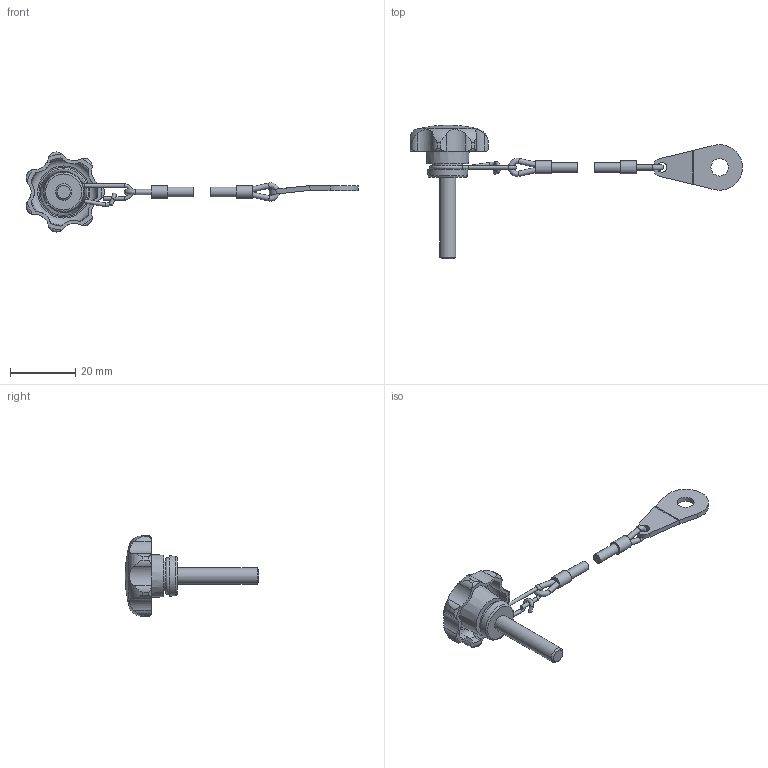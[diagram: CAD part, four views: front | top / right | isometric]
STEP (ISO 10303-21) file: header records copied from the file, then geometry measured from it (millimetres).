
FILE_DESCRIPTION( ( 'STEP AP203' ), '1' );
FILE_NAME( 'C:/Temp/Ganter_Step_05_03_2020/data/2_2/gn_6336_13/gn_6336_13_2/Star knob GN 6336.13-25-M5-25-H.stp', '2020-03-05T12:11:29', ( 'License CC BY-ND 4.0' ), ( 'CADENAS' ), ' ', 'PARTsolutions', ' ' );
FILE_SCHEMA( ( 'CONFIG_CONTROL_DESIGN' ) );
Length unit declared in the file: millimetre
Products named in the file (3): Star knob GN 6336.13-25-M5-25-H; _Star knob GN 6336.13-25-M5-25-H 6; _Star knob GN 111.2-200-14 h2
Assembly tree (2 placements, depth 2):
  Star knob GN 6336.13-25-M5-25-H
    _Star knob GN 6336.13-25-M5-25-H 6
    _Star knob GN 111.2-200-14 h2
Bounding box: 101.94 x 41 x 24.58 mm (x, y, z)
Volume: 4223 mm3; surface area: 3862.7 mm2
Topology: 2 solids, 2 shells, 137 faces, 376 edges, 244 vertices
Faces by surface type: cylinder 73, plane 32, torus 20, cone 11, sphere 1
Full cylindrical faces by diameter (mm): 1.1 x6, 1.6 x4, 3 x3, 4 x2, 5 x1, 5.3 x1, 9.1 x1
Entity records: 4849 total; most frequent: CARTESIAN_POINT 1530, DIRECTION 667, ORIENTED_EDGE 636, EDGE_CURVE 318, AXIS2_PLACEMENT_3D 287, VERTEX_POINT 230, EDGE_LOOP 189, FACE_OUTER_BOUND 167
